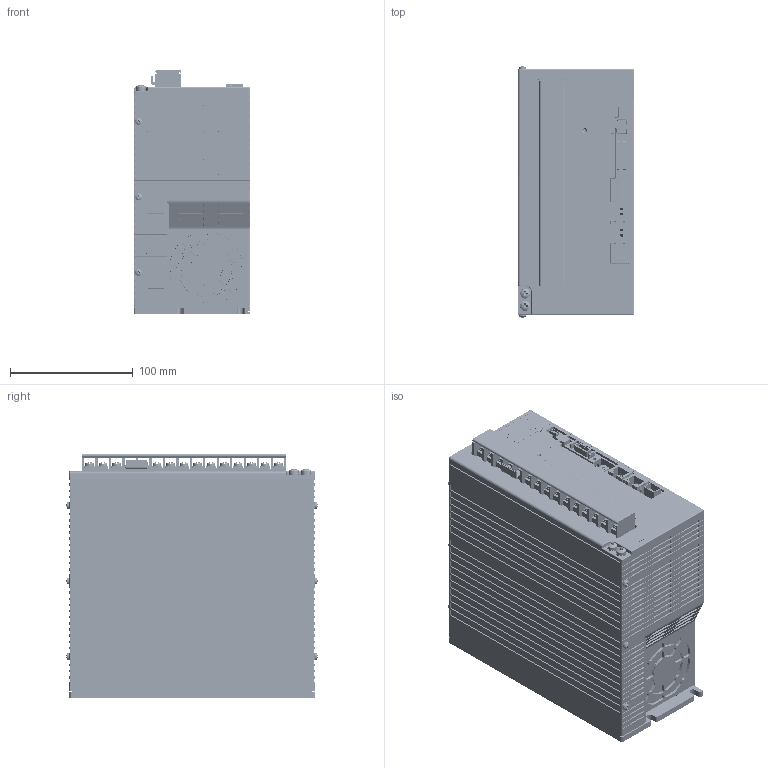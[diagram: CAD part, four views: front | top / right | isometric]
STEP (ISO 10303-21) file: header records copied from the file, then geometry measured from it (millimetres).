
FILE_DESCRIPTION (( 'STEP AP203' ), '1' );
FILE_NAME ('NCR-VD_Series(152-222)#SX-008600-00-01.STEP', '2026-05-28T00:07:54', ( '' ), ( '' ), 'SwSTEP 2.0', 'SolidWorks 2024', '' );
FILE_SCHEMA (( 'CONFIG_CONTROL_DESIGN' ));
Products named in the file (1): NCR-VD_Series(152-222)#SX-008600-00-01
Bounding box: 95 x 204.71 x 199.2 mm (x, y, z)
Volume: 3373972.6 mm3; surface area: 212917.9 mm2
Topology: 2 solids, 55 shells, 10161 faces, 29379 edges, 19330 vertices
Faces by surface type: plane 7335, cylinder 1749, bspline 711, cone 281, torus 62, sphere 23
Entity records: 363648 total; most frequent: CARTESIAN_POINT 106554, ORIENTED_EDGE 58720, DIRECTION 46507, EDGE_CURVE 29360, VECTOR 22217, LINE 22217, VERTEX_POINT 19330, AXIS2_PLACEMENT_3D 12145
